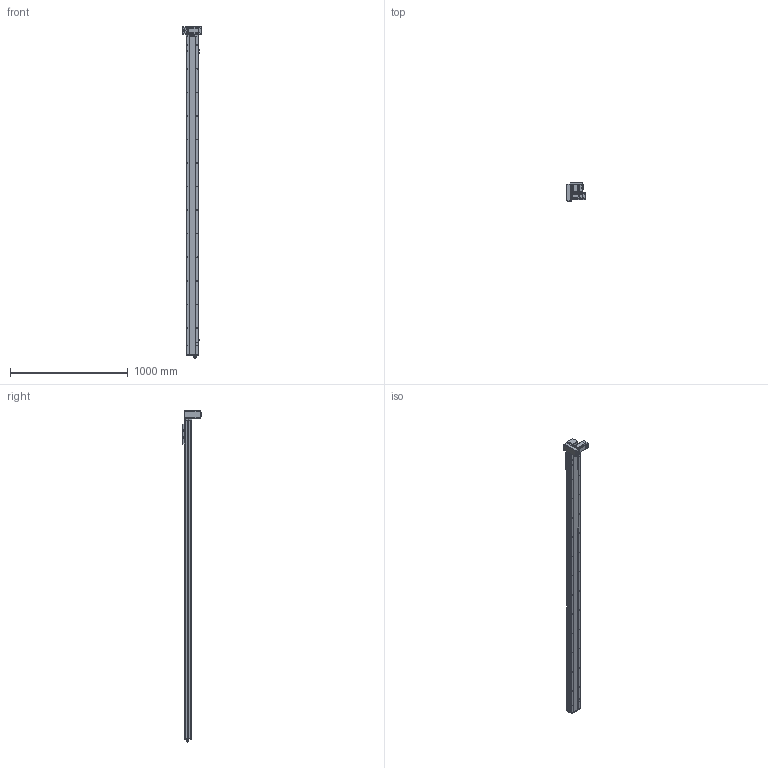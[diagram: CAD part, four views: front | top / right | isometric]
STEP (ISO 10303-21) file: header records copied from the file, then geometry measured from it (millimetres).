
FILE_DESCRIPTION (( 'STEP AP214' ), '1' );
FILE_NAME ('TPE10-L41.6-2450-LD-P20-C4.STEP', '2023-03-13T00:40:40', ( '' ), ( '' ), 'SwSTEP 2.0', 'SolidWorks 2020', '' );
FILE_SCHEMA (( 'AUTOMOTIVE_DESIGN' ));
Length unit declared in the file: millimetre
Products named in the file (16): 葩璃 TPE10-L-002 耜裔ZTMT-102B-04^TPE10-L41.6-LD-P20-C4; 葩璃 TPE10-007 々湍釱MZ-169x88^TPE10-L41.6-LD-P20-C4; TPE10-L41.6-2450-LD-P20-C4; hex nuts, style 1-grades ab gb_GB_FASTENER_NUT_SNAB1 M3-N; 葩璃 侂狟100W^TPE10-L41.6-LD-P20-C4; 葩璃 TPE10 賑雄殤 TPE10^TPE10-L41.6-LD-P20-C4; 葩璃 TPE10-L-001 菁釱MZ-102A-01^TPE10-L41.6-LD-P20-C4; hexagon head bolts-full thread gb_GB_FASTENER_BOLT_STBAB A M5X16-N; 葩璃 TPT10-L-009 萇儂啣^TPE10-L41.6-LD-P20-C4_200W; 葩璃 侂狟400W^TPE10-L41.6-LD-P20-C4; 葩璃 詩湍75^TPE10-L41.6-LD-P20-C4; hexagon socket head cap screws gb_GB_FASTENER_SCREWS_HSHCS M3X6-N; 葩璃 pm-t65-672^TPE10-L41.6-LD-P20-C4; 葩璃 TPF10-L-008 耜醱啣^TPE10-L41.6-LD-P20-C4; 葩璃 TPF10 詩湍揤啣 TPF10 12^TPE10-L41.6-LD-P20-C4; 葩璃 PL8-02^TPE10-L41.6-LD-P20-C4
Assembly tree (29 placements, depth 2):
  TPE10-L41.6-2450-LD-P20-C4
    葩璃 TPE10-L-001 菁釱MZ-102A-01^TPE10-L41.6-LD-P20-C4
    葩璃 TPE10-L-002 耜裔ZTMT-102B-04^TPE10-L41.6-LD-P20-C4  x2
    葩璃 詩湍75^TPE10-L41.6-LD-P20-C4
    葩璃 TPE10-007 々湍釱MZ-169x88^TPE10-L41.6-LD-P20-C4
    葩璃 TPF10-L-008 耜醱啣^TPE10-L41.6-LD-P20-C4
    葩璃 TPE10 賑雄殤 TPE10^TPE10-L41.6-LD-P20-C4
    葩璃 TPF10 詩湍揤啣 TPF10 12^TPE10-L41.6-LD-P20-C4  x2
    葩璃 TPT10-L-009 萇儂啣^TPE10-L41.6-LD-P20-C4_200W
    葩璃 pm-t65-672^TPE10-L41.6-LD-P20-C4  x3
    葩璃 PL8-02^TPE10-L41.6-LD-P20-C4
    葩璃 侂狟100W^TPE10-L41.6-LD-P20-C4
    葩璃 侂狟400W^TPE10-L41.6-LD-P20-C4
    hexagon socket head cap screws gb_GB_FASTENER_SCREWS_HSHCS M3X6-N  x6
    hex nuts, style 1-grades ab gb_GB_FASTENER_NUT_SNAB1 M3-N  x6
    hexagon head bolts-full thread gb_GB_FASTENER_BOLT_STBAB A M5X16-N
Bounding box: 162.5 x 162.15 x 2818.35 mm (x, y, z)
Volume: 8913452.3 mm3; surface area: 2155848.5 mm2
Topology: 37 solids, 37 shells, 2093 faces, 5361 edges, 3384 vertices
Faces by surface type: plane 1106, cylinder 669, cone 248, bspline 42, torus 26, sphere 2
Entity records: 52728 total; most frequent: CARTESIAN_POINT 10758, DIRECTION 8464, ORIENTED_EDGE 8098, EDGE_CURVE 4049, AXIS2_PLACEMENT_3D 2988, VERTEX_POINT 2611, LINE 2488, VECTOR 2488
